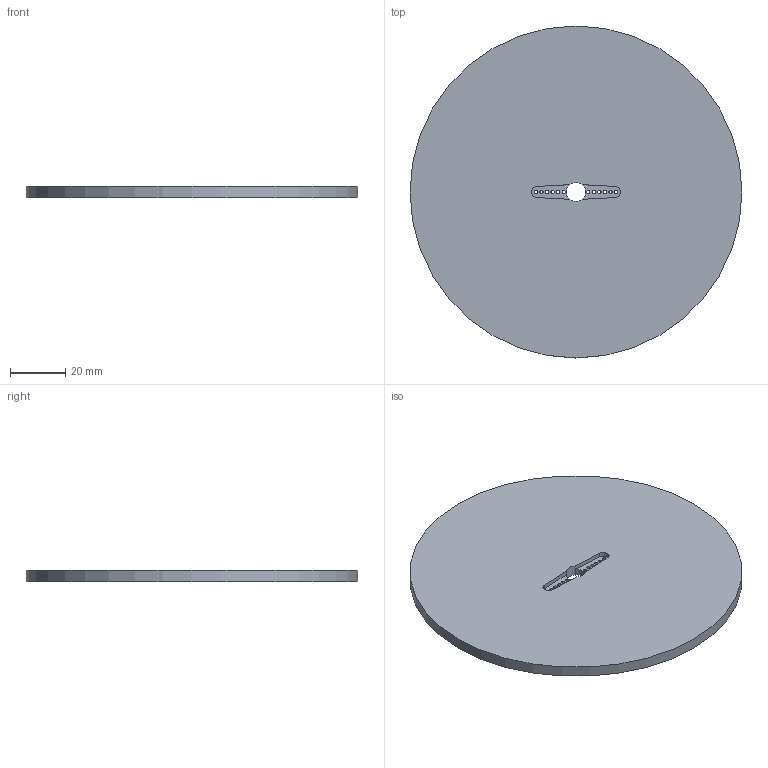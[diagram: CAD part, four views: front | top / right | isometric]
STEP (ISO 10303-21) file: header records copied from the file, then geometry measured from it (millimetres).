
FILE_DESCRIPTION(/* description */ (''),/* implementation_level */ '2;1');
FILE_NAME(/* name */ 'Shoulder_v18.tmp.step',/* time_stamp */ '2026-11-01T13:11:31+02:00',/* author */ (''),/* organization */ (''),/* preprocessor_version */ 'ST-DEVELOPER v20.2',/* originating_system */ 'Autodesk Translation Framework v15.15.0.0',/* authorisation */ '');
FILE_SCHEMA (('AUTOMOTIVE_DESIGN { 1 0 10303 214 3 1 1 }'));
Length unit declared in the file: millimetre
Products named in the file (1): Shoulder
Bounding box: 120 x 120 x 4 mm (x, y, z)
Volume: 44872.1 mm3; surface area: 24296.2 mm2
Topology: 1 solids, 1 shells, 27 faces, 75 edges, 50 vertices
Faces by surface type: cylinder 19, plane 8
Full cylindrical faces by diameter (mm): 1.2 x12, 120 x1
Entity records: 972 total; most frequent: DIRECTION 169, CARTESIAN_POINT 153, ORIENTED_EDGE 150, EDGE_CURVE 75, AXIS2_PLACEMENT_3D 66, EDGE_LOOP 53, VERTEX_POINT 50, CIRCLE 38
